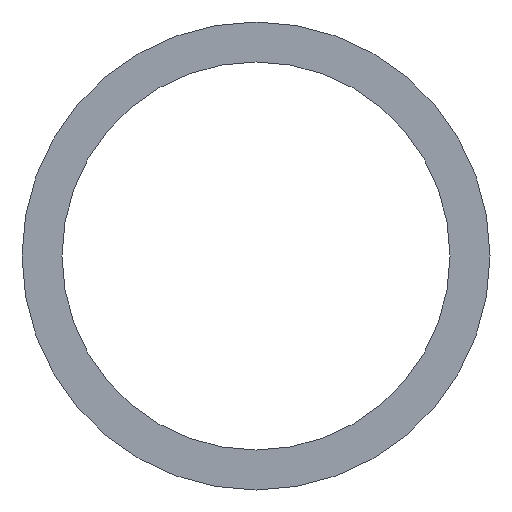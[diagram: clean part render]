
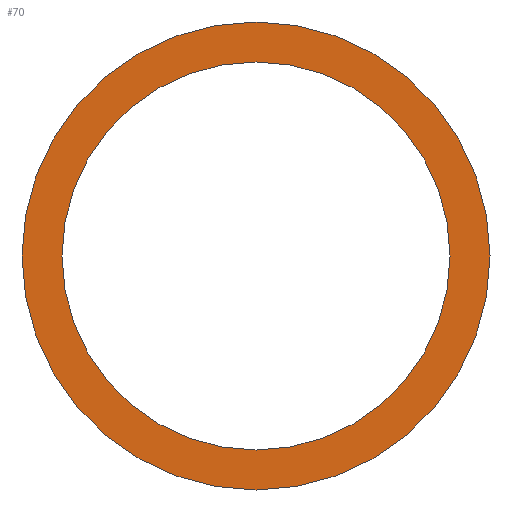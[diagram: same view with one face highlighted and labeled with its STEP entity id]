
A CAD part, front view. The second image highlights one B-rep face of the part: STEP entity #70.
In plain terms, the highlighted planar face has unit normal (0, -1, 0).
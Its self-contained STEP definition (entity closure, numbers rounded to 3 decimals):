
#31 = VERTEX_POINT('',#32);
#32 = CARTESIAN_POINT('',(0.,-6.5,41.));
#38 = EDGE_CURVE('',#31,#31,#39,.T.);
#39 = CIRCLE('',#40,41.);
#40 = AXIS2_PLACEMENT_3D('',#41,#42,#43);
#41 = CARTESIAN_POINT('',(0.,-6.5,0.));
#42 = DIRECTION('',(0.,1.,0.));
#43 = DIRECTION('',(0.,-0.,1.));
#70 = ADVANCED_FACE('',(#71,#74),#85,.F.);
#71 = FACE_BOUND('',#72,.F.);
#72 = EDGE_LOOP('',(#73));
#73 = ORIENTED_EDGE('',*,*,#38,.T.);
#74 = FACE_BOUND('',#75,.F.);
#75 = EDGE_LOOP('',(#76));
#76 = ORIENTED_EDGE('',*,*,#77,.F.);
#77 = EDGE_CURVE('',#78,#78,#80,.T.);
#78 = VERTEX_POINT('',#79);
#79 = CARTESIAN_POINT('',(0.,-6.5,34.));
#80 = CIRCLE('',#81,34.);
#81 = AXIS2_PLACEMENT_3D('',#82,#83,#84);
#82 = CARTESIAN_POINT('',(0.,-6.5,0.));
#83 = DIRECTION('',(0.,1.,0.));
#84 = DIRECTION('',(0.,-0.,1.));
#85 = PLANE('',#86);
#86 = AXIS2_PLACEMENT_3D('',#87,#88,#89);
#87 = CARTESIAN_POINT('',(0.,-6.5,0.));
#88 = DIRECTION('',(0.,1.,0.));
#89 = DIRECTION('',(0.,-0.,1.));
